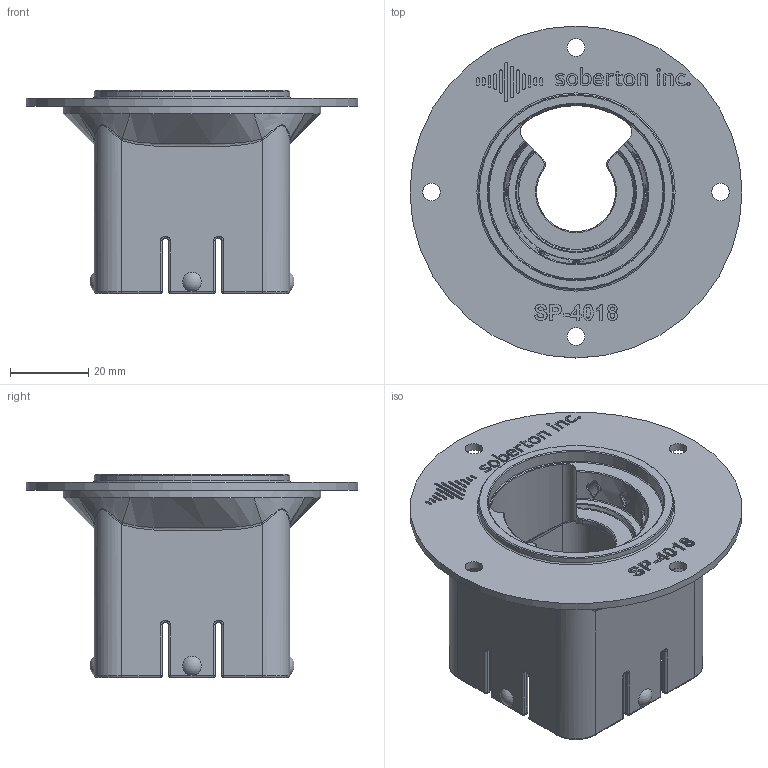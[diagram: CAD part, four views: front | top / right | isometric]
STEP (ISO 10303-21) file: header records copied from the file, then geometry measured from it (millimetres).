
FILE_DESCRIPTION(/* description */ (''),/* implementation_level */ '2;1');
FILE_NAME(/* name */ 'C:/Users/bodhe/OneDrive - Obvious Innovations LLC/Documents/Soberton Parts/Enclosure files/EC-001J.step',/* time_stamp */ '2021-04-26T18:02:45-05:00',/* author */ (''),/* organization */ (''),/* preprocessor_version */ 'ST-DEVELOPER v18.1',/* originating_system */ 'Autodesk Translation Framework v10.6.0.1341',/* authorisation */ '');
FILE_SCHEMA (('AUTOMOTIVE_DESIGN { 1 0 10303 214 3 1 1 }'));
Products named in the file (1): EC-001J
Bounding box: 85 x 85 x 52 mm (x, y, z)
Volume: 51434.5 mm3; surface area: 27667.4 mm2
Topology: 1 solids, 2 shells, 1028 faces, 2578 edges, 1567 vertices
Faces by surface type: bspline 447, plane 237, cylinder 186, torus 82, cone 40, sphere 36
Full cylindrical faces by diameter (mm): 0.429 x1, 4.5 x4, 45 x1, 50 x1, 66 x1, 85 x1
Entity records: 49384 total; most frequent: CARTESIAN_POINT 27657, ORIENTED_EDGE 5092, DIRECTION 3456, EDGE_CURVE 2546, VERTEX_POINT 1567, AXIS2_PLACEMENT_3D 1233, EDGE_LOOP 1101, FACE_OUTER_BOUND 1028
